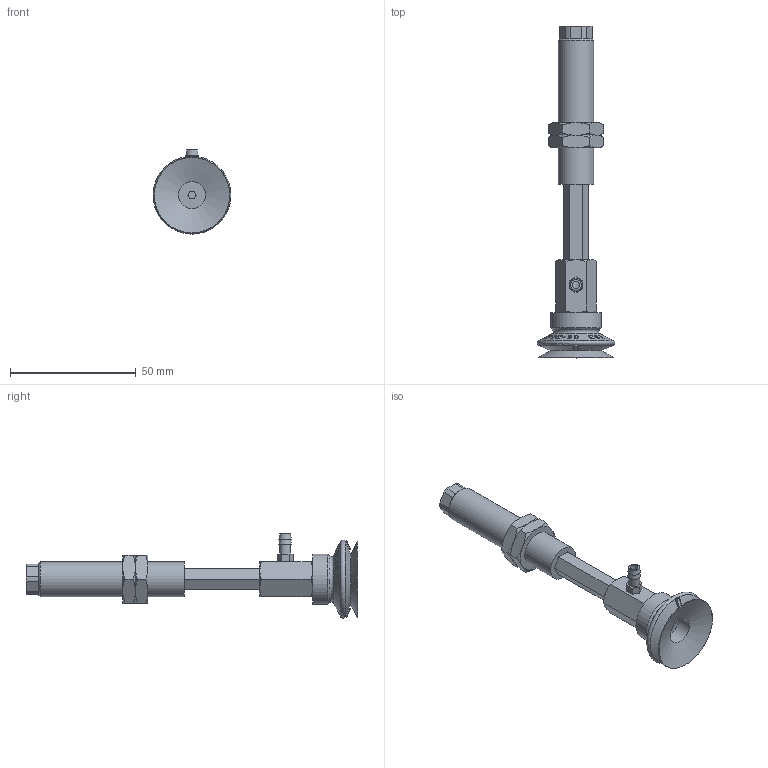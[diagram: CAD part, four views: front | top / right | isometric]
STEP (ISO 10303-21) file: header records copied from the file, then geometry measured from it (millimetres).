
FILE_DESCRIPTION(('STEP AP214'),'1');
FILE_NAME('-T.stp','2026-01-21T07:17:03',(' '),(' '),'Spatial InterOp 3D',' ',' ');
FILE_SCHEMA(('AUTOMOTIVE_DESIGN { 1 0 10303 214 1 1 1 1 }'));
Length unit declared in the file: millimetre
Products named in the file (8): BNABPJYH-30-30-※-T; T; BPJG-30-※; Adapter-30-NAPJ; CONNECTOR_H-30-30; NAPJH-30-30-NUT; NAPJYH-30-30-FBODY; NAPJYH-30-30-MBODY
Assembly tree (8 placements, depth 2):
  BNABPJYH-30-30-※-T
    T
    BPJG-30-※
    Adapter-30-NAPJ
    CONNECTOR_H-30-30
    NAPJH-30-30-NUT  x2
    NAPJYH-30-30-FBODY
    NAPJYH-30-30-MBODY
Bounding box: 30.99 x 132 x 33.5 mm (x, y, z)
Volume: 21983.5 mm3; surface area: 16257.1 mm2
Topology: 8 solids, 8 shells, 810 faces, 2232 edges, 1465 vertices
Faces by surface type: plane 699, cone 73, cylinder 31, torus 7
Full cylindrical faces by diameter (mm): 3 x3, 4.134 x2, 4.3 x1, 4.917 x1, 5 x2, 5.8 x1, 6 x1, 10.8 x1, 11 x1, 13.188 x2, 14 x1, 20 x1
Entity records: 32307 total; most frequent: CARTESIAN_POINT 7921, ORIENTED_EDGE 4282, DIRECTION 2763, EDGE_CURVE 2141, VERTEX_POINT 1432, B_SPLINE_CURVE_WITH_KNOTS 1083, LINE 945, VECTOR 945
